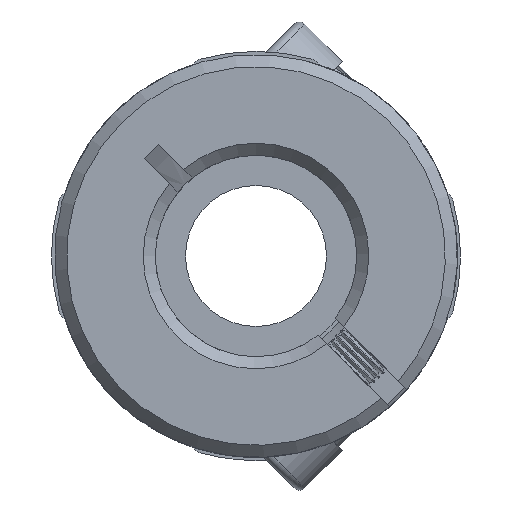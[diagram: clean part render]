
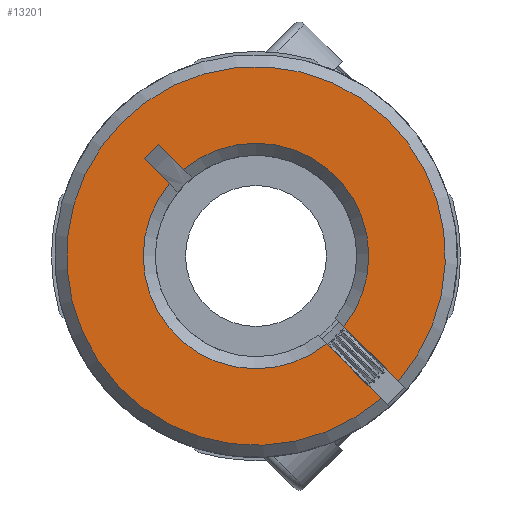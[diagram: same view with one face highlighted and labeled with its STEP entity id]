
A CAD part, front view. The second image highlights one B-rep face of the part: STEP entity #13201.
In plain terms, the highlighted planar face has unit normal (0, -1, 0).
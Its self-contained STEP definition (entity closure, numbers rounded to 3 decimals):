
#35 = ORIENTED_EDGE ( 'NONE', *, *, #1150, .T. ) ;
#386 = VERTEX_POINT ( 'NONE', #11312 ) ;
#449 = DIRECTION ( 'NONE',  ( 0., 1., 0. ) ) ;
#496 = CIRCLE ( 'NONE', #5189, 9.4 ) ;
#645 = AXIS2_PLACEMENT_3D ( 'NONE', #10833, #6808, #10751 ) ;
#682 = VERTEX_POINT ( 'NONE', #10155 ) ;
#799 = LINE ( 'NONE', #4264, #8612 ) ;
#886 = CARTESIAN_POINT ( 'NONE',  ( -4.842, -12.6, 5.549 ) ) ;
#897 = DIRECTION ( 'NONE',  ( 0.707, 0., -0.707 ) ) ;
#1091 = VERTEX_POINT ( 'NONE', #5902 ) ;
#1150 = EDGE_CURVE ( 'NONE', #7562, #5734, #7214, .T. ) ;
#1293 = EDGE_CURVE ( 'NONE', #682, #11780, #5783, .T. ) ;
#1481 = EDGE_CURVE ( 'NONE', #1091, #11780, #12955, .T. ) ;
#1973 = CARTESIAN_POINT ( 'NONE',  ( 0., -12.6, 0. ) ) ;
#2067 = EDGE_CURVE ( 'NONE', #5734, #9359, #8776, .T. ) ;
#2163 = EDGE_CURVE ( 'NONE', #12457, #386, #496, .T. ) ;
#2251 = DIRECTION ( 'NONE',  ( 0.707, 0., -0.707 ) ) ;
#2328 = DIRECTION ( 'NONE',  ( 0.707, 0., -0.707 ) ) ;
#2554 = ORIENTED_EDGE ( 'NONE', *, *, #1481, .T. ) ;
#3381 = FACE_OUTER_BOUND ( 'NONE', #12395, .T. ) ;
#3433 = CARTESIAN_POINT ( 'NONE',  ( 3.934, -12.6, -3.086 ) ) ;
#3512 = AXIS2_PLACEMENT_3D ( 'NONE', #10638, #449, #5477 ) ;
#3593 = CARTESIAN_POINT ( 'NONE',  ( 4.361, -12.6, -3.513 ) ) ;
#4264 = CARTESIAN_POINT ( 'NONE',  ( 3.086, -12.6, -3.934 ) ) ;
#4322 = CARTESIAN_POINT ( 'NONE',  ( -3.59, -12.6, 4.298 ) ) ;
#4428 = LINE ( 'NONE', #3433, #6189 ) ;
#4723 = EDGE_CURVE ( 'NONE', #12457, #9359, #4428, .T. ) ;
#4881 = DIRECTION ( 'NONE',  ( 0.707, 0., -0.707 ) ) ;
#5189 = AXIS2_PLACEMENT_3D ( 'NONE', #1973, #13029, #897 ) ;
#5234 = PLANE ( 'NONE',  #12729 ) ;
#5477 = DIRECTION ( 'NONE',  ( 0.707, 0., -0.707 ) ) ;
#5734 = VERTEX_POINT ( 'NONE', #4322 ) ;
#5783 = LINE ( 'NONE', #9207, #8169 ) ;
#5902 = CARTESIAN_POINT ( 'NONE',  ( 3.513, -12.6, -4.361 ) ) ;
#5929 = DIRECTION ( 'NONE',  ( -0.707, 0., -0.707 ) ) ;
#6189 = VECTOR ( 'NONE', #7353, 1000. ) ;
#6521 = DIRECTION ( 'NONE',  ( 0., 1., 0. ) ) ;
#6619 = EDGE_CURVE ( 'NONE', #7562, #682, #11721, .T. ) ;
#6752 = VECTOR ( 'NONE', #4881, 1000. ) ;
#6808 = DIRECTION ( 'NONE',  ( 0., 1., 0. ) ) ;
#7167 = ORIENTED_EDGE ( 'NONE', *, *, #1293, .F. ) ;
#7214 = LINE ( 'NONE', #12984, #6752 ) ;
#7288 = CARTESIAN_POINT ( 'NONE',  ( 342.528, -12.6, 364.579 ) ) ;
#7353 = DIRECTION ( 'NONE',  ( -0.707, 0., 0.707 ) ) ;
#7562 = VERTEX_POINT ( 'NONE', #8251 ) ;
#8169 = VECTOR ( 'NONE', #11106, 1000. ) ;
#8251 = CARTESIAN_POINT ( 'NONE',  ( -4.842, -12.6, 5.549 ) ) ;
#8360 = ORIENTED_EDGE ( 'NONE', *, *, #9975, .F. ) ;
#8612 = VECTOR ( 'NONE', #2251, 1000. ) ;
#8681 = VECTOR ( 'NONE', #5929, 1000. ) ;
#8776 = CIRCLE ( 'NONE', #645, 5.6 ) ;
#9207 = CARTESIAN_POINT ( 'NONE',  ( 4.95, -12.6, -5.657 ) ) ;
#9359 = VERTEX_POINT ( 'NONE', #3593 ) ;
#9415 = ORIENTED_EDGE ( 'NONE', *, *, #4723, .F. ) ;
#9660 = ORIENTED_EDGE ( 'NONE', *, *, #2163, .T. ) ;
#9975 = EDGE_CURVE ( 'NONE', #1091, #386, #799, .T. ) ;
#10155 = CARTESIAN_POINT ( 'NONE',  ( -5.549, -12.6, 4.842 ) ) ;
#10504 = ORIENTED_EDGE ( 'NONE', *, *, #6619, .F. ) ;
#10638 = CARTESIAN_POINT ( 'NONE',  ( 0., -12.6, 0. ) ) ;
#10751 = DIRECTION ( 'NONE',  ( 0.707, 0., -0.707 ) ) ;
#10833 = CARTESIAN_POINT ( 'NONE',  ( 0., -12.6, 0. ) ) ;
#11106 = DIRECTION ( 'NONE',  ( 0.707, 0., -0.707 ) ) ;
#11312 = CARTESIAN_POINT ( 'NONE',  ( 6.209, -12.6, -7.058 ) ) ;
#11588 = CARTESIAN_POINT ( 'NONE',  ( 7.058, -12.6, -6.209 ) ) ;
#11721 = LINE ( 'NONE', #886, #8681 ) ;
#11780 = VERTEX_POINT ( 'NONE', #12265 ) ;
#11935 = ORIENTED_EDGE ( 'NONE', *, *, #2067, .T. ) ;
#12265 = CARTESIAN_POINT ( 'NONE',  ( -4.298, -12.6, 3.59 ) ) ;
#12395 = EDGE_LOOP ( 'NONE', ( #35, #11935, #9415, #9660, #8360, #2554, #7167, #10504 ) ) ;
#12457 = VERTEX_POINT ( 'NONE', #11588 ) ;
#12729 = AXIS2_PLACEMENT_3D ( 'NONE', #7288, #6521, #2328 ) ;
#12955 = CIRCLE ( 'NONE', #3512, 5.6 ) ;
#12984 = CARTESIAN_POINT ( 'NONE',  ( 5.657, -12.6, -4.95 ) ) ;
#13029 = DIRECTION ( 'NONE',  ( 0., -1., 0. ) ) ;
#13201 = ADVANCED_FACE ( 'NONE', ( #3381 ), #5234, .F. ) ;
